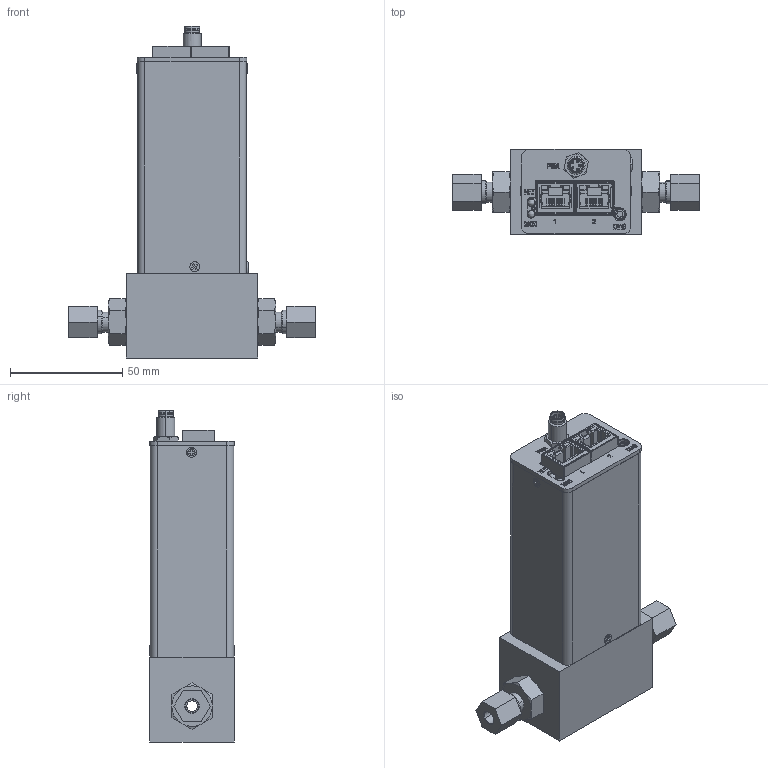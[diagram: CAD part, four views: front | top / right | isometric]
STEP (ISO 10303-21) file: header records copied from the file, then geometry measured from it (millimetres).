
FILE_DESCRIPTION (( 'STEP AP203' ), '1' );
FILE_NAME ('SLA5860-7-1H-0-A-REVB.STEP', '2021-12-02T14:35:57', ( '' ), ( '' ), 'SwSTEP 2.0', 'SolidWorks 2020', '' );
FILE_SCHEMA (( 'CONFIG_CONTROL_DESIGN' ));
Products named in the file (1): SLA5860-7-1H-0-A-REVB
Bounding box: 109.97 x 38.07 x 147.97 mm (x, y, z)
Volume: 51870 mm3; surface area: 76639.5 mm2
Topology: 37 solids, 37 shells, 1677 faces, 4426 edges, 2874 vertices
Faces by surface type: plane 1137, cylinder 321, cone 114, bspline 105
Entity records: 53664 total; most frequent: CARTESIAN_POINT 12144, ORIENTED_EDGE 8824, DIRECTION 8192, EDGE_CURVE 4412, VECTOR 3340, LINE 3340, VERTEX_POINT 2874, AXIS2_PLACEMENT_3D 2426
